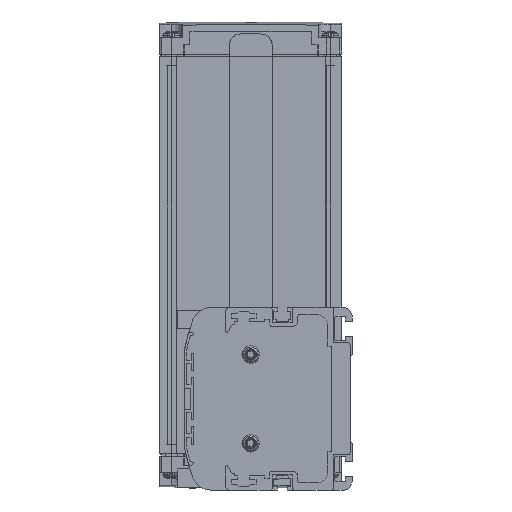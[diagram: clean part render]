
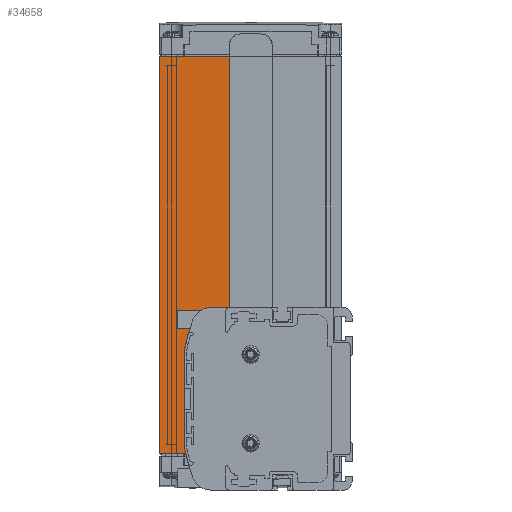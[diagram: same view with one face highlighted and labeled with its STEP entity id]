
A CAD part, left-side view. The second image highlights one B-rep face of the part: STEP entity #34658.
In plain terms, the highlighted planar face has unit normal (-1, 0, 0).
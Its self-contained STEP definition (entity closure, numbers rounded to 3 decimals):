
#9086=DIRECTION('',(0.,-1.,0.));
#9087=VECTOR('',#9086,11.203);
#9088=CARTESIAN_POINT('',(3.,82.5,-23.5));
#9089=LINE('',#9088,#9087);
#9090=DIRECTION('',(0.,0.,-1.));
#9091=VECTOR('',#9090,170.);
#9092=CARTESIAN_POINT('',(3.,82.5,146.5));
#9093=LINE('',#9092,#9091);
#9094=DIRECTION('',(0.,1.,0.));
#9095=VECTOR('',#9094,29.9);
#9096=CARTESIAN_POINT('',(3.,52.6,146.5));
#9097=LINE('',#9096,#9095);
#9098=DIRECTION('',(0.,-1.,0.));
#9099=VECTOR('',#9098,8.155);
#9100=CARTESIAN_POINT('',(3.,60.755,39.));
#9101=LINE('',#9100,#9099);
#12101=CARTESIAN_POINT('',(3.,-6.765,-6.));
#12102=DIRECTION('',(1.,0.,0.));
#12103=DIRECTION('',(0.,0.976,-0.219));
#12104=AXIS2_PLACEMENT_3D('',#12101,#12102,#12103);
#12110=CARTESIAN_POINT('',(3.,70.,-19.823));
#12111=DIRECTION('',(-1.,0.,0.));
#12112=DIRECTION('',(0.,1.,0.));
#12113=AXIS2_PLACEMENT_3D('',#12110,#12111,#12112);
#12123=DIRECTION('',(0.,0.,1.));
#12124=VECTOR('',#12123,39.645);
#12125=CARTESIAN_POINT('',(3.,72.,-19.823));
#12126=LINE('',#12125,#12124);
#12131=CARTESIAN_POINT('',(3.,70.,19.823));
#12132=DIRECTION('',(1.,0.,0.));
#12133=DIRECTION('',(0.,1.,0.));
#12134=AXIS2_PLACEMENT_3D('',#12131,#12132,#12133);
#12140=CARTESIAN_POINT('',(3.,-6.765,6.));
#12141=DIRECTION('',(1.,0.,0.));
#12142=DIRECTION('',(0.,0.984,0.177));
#12143=AXIS2_PLACEMENT_3D('',#12140,#12141,#12142);
#12145=CARTESIAN_POINT('',(3.,-6.765,6.));
#12146=DIRECTION('',(1.,0.,0.));
#12147=DIRECTION('',(0.,0.963,0.269));
#12148=AXIS2_PLACEMENT_3D('',#12145,#12146,#12147);
#12154=CARTESIAN_POINT('',(3.,60.755,31.));
#12155=DIRECTION('',(-1.,0.,0.));
#12156=DIRECTION('',(0.,0.,1.));
#12157=AXIS2_PLACEMENT_3D('',#12154,#12155,#12156);
#12548=DIRECTION('',(0.,-1.,0.));
#12549=VECTOR('',#12548,0.209);
#12550=CARTESIAN_POINT('',(3.,70.5,27.5));
#12551=LINE('',#12550,#12549);
#12572=DIRECTION('',(0.,0.,1.));
#12573=VECTOR('',#12572,0.762);
#12574=CARTESIAN_POINT('',(3.,70.5,26.738));
#12575=LINE('',#12574,#12573);
#12580=DIRECTION('',(0.,0.,1.));
#12581=VECTOR('',#12580,107.5);
#12582=CARTESIAN_POINT('',(3.,52.6,39.));
#12583=LINE('',#12582,#12581);
#18105=CARTESIAN_POINT('',(3.,82.5,-23.5));
#18107=VERTEX_POINT('',#18105);
#18202=CARTESIAN_POINT('',(3.,52.6,146.5));
#18203=VERTEX_POINT('',#18202);
#18204=CARTESIAN_POINT('',(3.,82.5,146.5));
#18205=VERTEX_POINT('',#18204);
#18238=CARTESIAN_POINT('',(3.,70.5,27.5));
#18239=VERTEX_POINT('',#18238);
#22381=CARTESIAN_POINT('',(3.,60.755,39.));
#22382=CARTESIAN_POINT('',(3.,52.6,39.));
#22383=VERTEX_POINT('',#22381);
#22384=VERTEX_POINT('',#22382);
#22385=CARTESIAN_POINT('',(3.,71.297,-23.5));
#22387=VERTEX_POINT('',#22385);
#22397=CARTESIAN_POINT('',(3.,70.5,26.738));
#22398=VERTEX_POINT('',#22397);
#22402=CARTESIAN_POINT('',(3.,70.291,27.5));
#22404=VERTEX_POINT('',#22402);
#22411=CARTESIAN_POINT('',(3.,72.,19.823));
#22412=CARTESIAN_POINT('',(3.,71.968,20.177));
#22413=VERTEX_POINT('',#22411);
#22414=VERTEX_POINT('',#22412);
#22415=CARTESIAN_POINT('',(3.,68.257,33.778));
#22416=VERTEX_POINT('',#22415);
#22429=CARTESIAN_POINT('',(3.,71.968,-20.177));
#22430=VERTEX_POINT('',#22429);
#22431=CARTESIAN_POINT('',(3.,72.,-19.823));
#22432=VERTEX_POINT('',#22431);
#34626=CARTESIAN_POINT('',(3.,67.55,61.5));
#34627=DIRECTION('',(1.,0.,0.));
#34628=DIRECTION('',(0.,-1.,0.));
#34629=AXIS2_PLACEMENT_3D('',#34626,#34627,#34628);
#34630=PLANE('',#34629);
#34632=ORIENTED_EDGE('',*,*,#34631,.F.);
#34634=ORIENTED_EDGE('',*,*,#34633,.T.);
#34636=ORIENTED_EDGE('',*,*,#34635,.F.);
#34638=ORIENTED_EDGE('',*,*,#34637,.F.);
#34640=ORIENTED_EDGE('',*,*,#34639,.F.);
#34642=ORIENTED_EDGE('',*,*,#34641,.F.);
#34644=ORIENTED_EDGE('',*,*,#34643,.F.);
#34646=ORIENTED_EDGE('',*,*,#34645,.F.);
#34648=ORIENTED_EDGE('',*,*,#34647,.T.);
#34650=ORIENTED_EDGE('',*,*,#34649,.F.);
#34651=ORIENTED_EDGE('',*,*,#29065,.F.);
#34652=ORIENTED_EDGE('',*,*,#34614,.F.);
#34653=ORIENTED_EDGE('',*,*,#22865,.F.);
#34655=ORIENTED_EDGE('',*,*,#34654,.F.);
#34656=EDGE_LOOP('',(#34632,#34634,#34636,#34638,#34640,#34642,#34644,#34646,
#34648,#34650,#34651,#34652,#34653,#34655));
#34657=FACE_OUTER_BOUND('',#34656,.F.);
#34658=ADVANCED_FACE('',(#34657),#34630,.F.);
#12105=CIRCLE('',#12104,80.);
#12114=CIRCLE('',#12113,2.);
#12135=CIRCLE('',#12134,2.);
#12144=CIRCLE('',#12143,80.);
#12149=CIRCLE('',#12148,80.);
#12158=CIRCLE('',#12157,8.);
#22865=EDGE_CURVE('',#18203,#18205,#9097,.T.);
#29065=EDGE_CURVE('',#18107,#22387,#9089,.T.);
#34614=EDGE_CURVE('',#18205,#18107,#9093,.T.);
#34631=EDGE_CURVE('',#22383,#22384,#9101,.T.);
#34633=EDGE_CURVE('',#22383,#22416,#12158,.T.);
#34635=EDGE_CURVE('',#22404,#22416,#12149,.T.);
#34637=EDGE_CURVE('',#18239,#22404,#12551,.T.);
#34639=EDGE_CURVE('',#22398,#18239,#12575,.T.);
#34641=EDGE_CURVE('',#22414,#22398,#12144,.T.);
#34643=EDGE_CURVE('',#22413,#22414,#12135,.T.);
#34645=EDGE_CURVE('',#22432,#22413,#12126,.T.);
#34647=EDGE_CURVE('',#22432,#22430,#12114,.T.);
#34649=EDGE_CURVE('',#22387,#22430,#12105,.T.);
#34654=EDGE_CURVE('',#22384,#18203,#12583,.T.);
